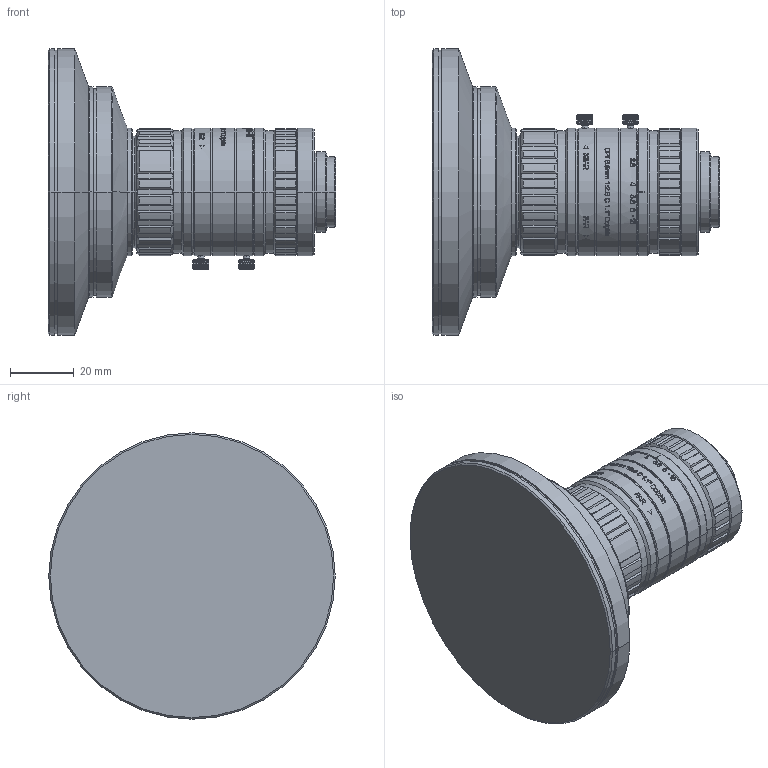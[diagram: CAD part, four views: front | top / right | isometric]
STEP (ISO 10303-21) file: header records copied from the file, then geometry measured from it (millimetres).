
FILE_DESCRIPTION((''),'2;1');
FILE_NAME('8MM-20MP-A_____SW0001','2024-05-18T10:26:24',('admin'),(''),'CREO PARAMETRIC BY PTC INC, 2020354','CREO PARAMETRIC BY PTC INC, 2020354','');
FILE_SCHEMA(('AUTOMOTIVE_DESIGN { 1 0 10303 214 1 1 1 1 }'));
Products named in the file (1): 8MM-20MP-A_____SW0001
Bounding box: 90.3 x 90 x 90 mm (x, y, z)
Volume: 184958.5 mm3; surface area: 26657.9 mm2
Topology: 1 solids, 1 shells, 1584 faces, 4422 edges, 2910 vertices
Faces by surface type: cylinder 592, plane 554, bspline 330, cone 91, extrusion 15, torus 2
Entity records: 70770 total; most frequent: CARTESIAN_POINT 29507, ORIENTED_EDGE 8844, DIRECTION 5806, EDGE_CURVE 4422, VERTEX_POINT 2910, AXIS2_PLACEMENT_3D 2035, B_SPLINE_CURVE_WITH_KNOTS 1920, VECTOR 1736
